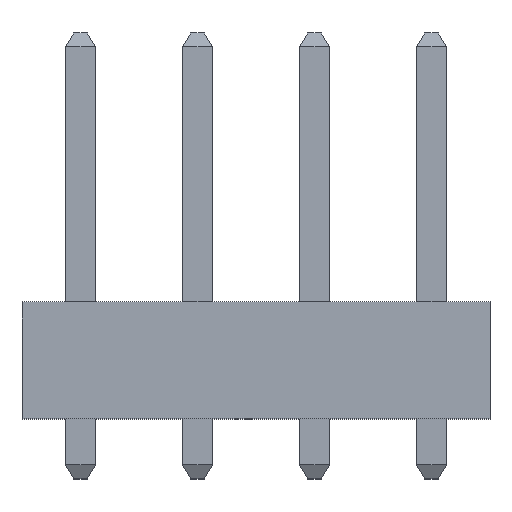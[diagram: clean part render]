
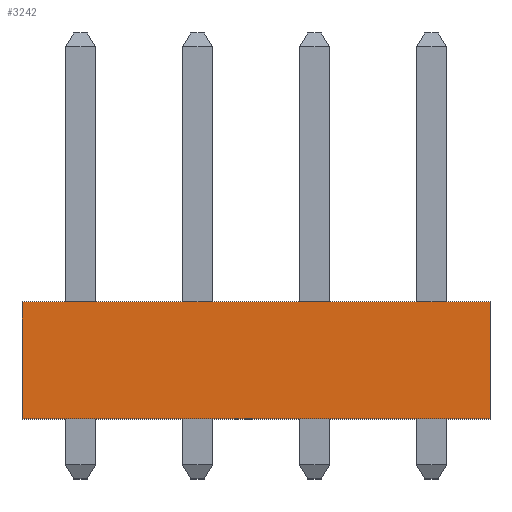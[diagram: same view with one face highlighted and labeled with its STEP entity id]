
A CAD part, top view. The second image highlights one B-rep face of the part: STEP entity #3242.
In plain terms, the highlighted planar face has unit normal (0, 0, 1).
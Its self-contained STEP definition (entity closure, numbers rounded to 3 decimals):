
#3174 = CARTESIAN_POINT ( 'NONE',  ( -5.08, 0., 2.51 ) ) ;
#3175 = VERTEX_POINT ( 'NONE', #3174 ) ;
#3182 = CARTESIAN_POINT ( 'NONE',  ( -5.08, 2.54, 2.51 ) ) ;
#3183 = VERTEX_POINT ( 'NONE', #3182 ) ;
#3184 = CARTESIAN_POINT ( 'NONE',  ( -5.08, 2.54, 2.51 ) ) ;
#3185 = DIRECTION ( 'NONE',  ( 0., -1., 0. ) ) ;
#3186 = VECTOR ( 'NONE', #3185, 1000. ) ;
#3187 = LINE ( 'NONE', #3184, #3186 ) ;
#3188 = EDGE_CURVE ( 'NONE', #3183, #3175, #3187, .T. ) ;
#3212 = CARTESIAN_POINT ( 'NONE',  ( 5.08, 0., 2.51 ) ) ;
#3213 = VERTEX_POINT ( 'NONE', #3212 ) ;
#3214 = CARTESIAN_POINT ( 'NONE',  ( -5.08, 0., 2.51 ) ) ;
#3215 = DIRECTION ( 'NONE',  ( 1., 0., 0. ) ) ;
#3216 = VECTOR ( 'NONE', #3215, 1000. ) ;
#3217 = LINE ( 'NONE', #3214, #3216 ) ;
#3218 = EDGE_CURVE ( 'NONE', #3175, #3213, #3217, .T. ) ;
#3219 = ORIENTED_EDGE ( 'NONE', *, *, #3218, .T. ) ;
#3220 = CARTESIAN_POINT ( 'NONE',  ( 5.08, 2.54, 2.51 ) ) ;
#3221 = VERTEX_POINT ( 'NONE', #3220 ) ;
#3222 = CARTESIAN_POINT ( 'NONE',  ( 5.08, 2.54, 2.51 ) ) ;
#3223 = DIRECTION ( 'NONE',  ( 0., -1., 0. ) ) ;
#3224 = VECTOR ( 'NONE', #3223, 1000. ) ;
#3225 = LINE ( 'NONE', #3222, #3224 ) ;
#3226 = EDGE_CURVE ( 'NONE', #3221, #3213, #3225, .T. ) ;
#3227 = ORIENTED_EDGE ( 'NONE', *, *, #3226, .F. ) ;
#3228 = CARTESIAN_POINT ( 'NONE',  ( -5.08, 2.54, 2.51 ) ) ;
#3229 = DIRECTION ( 'NONE',  ( 1., 0., 0. ) ) ;
#3230 = VECTOR ( 'NONE', #3229, 1000. ) ;
#3231 = LINE ( 'NONE', #3228, #3230 ) ;
#3232 = EDGE_CURVE ( 'NONE', #3183, #3221, #3231, .T. ) ;
#3233 = ORIENTED_EDGE ( 'NONE', *, *, #3232, .F. ) ;
#3234 = ORIENTED_EDGE ( 'NONE', *, *, #3188, .T. ) ;
#3235 = EDGE_LOOP ( 'NONE', ( #3219, #3227, #3233, #3234 ) ) ;
#3236 = FACE_OUTER_BOUND ( 'NONE', #3235, .T. ) ;
#3237 = CARTESIAN_POINT ( 'NONE',  ( -5.08, 2.54, 2.51 ) ) ;
#3238 = DIRECTION ( 'NONE',  ( 0., 0., -1. ) ) ;
#3239 = DIRECTION ( 'NONE',  ( -1., 0., 0. ) ) ;
#3240 = AXIS2_PLACEMENT_3D ( 'NONE', #3237, #3238, #3239 ) ;
#3241 = PLANE ( 'NONE', #3240 ) ;
#3242 = ADVANCED_FACE ( 'NONE', ( #3236 ), #3241, .F. ) ;
